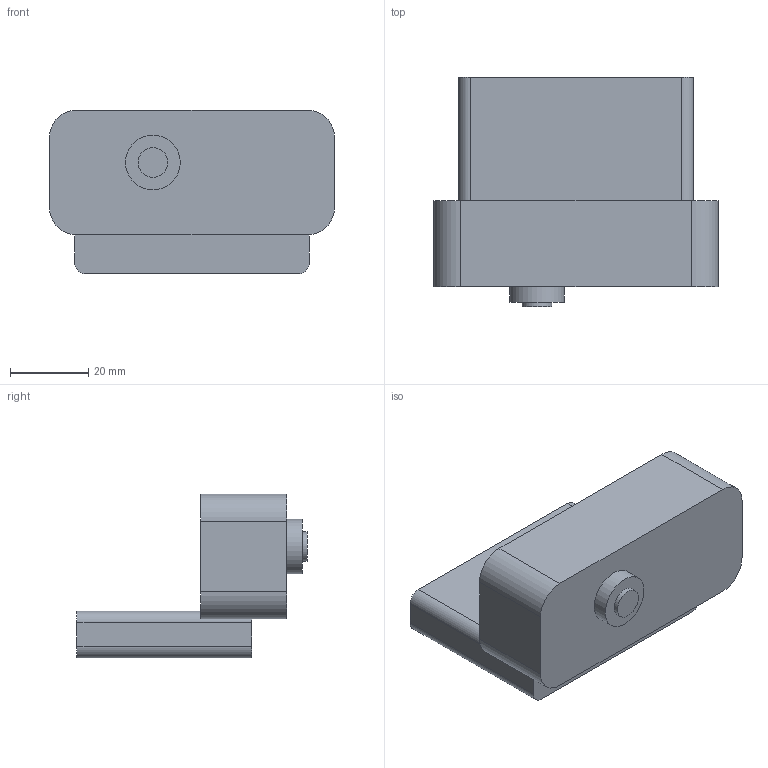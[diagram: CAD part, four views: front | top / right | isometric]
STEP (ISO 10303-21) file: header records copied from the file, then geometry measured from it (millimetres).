
FILE_DESCRIPTION(('Open CASCADE Model'),'2;1');
FILE_NAME('Open CASCADE Shape Model','2026-08-28T14:41:55',('Author'),( 'Open CASCADE'),'Open CASCADE STEP processor 7.8','Open CASCADE 7.8' ,'Unknown');
FILE_SCHEMA(('AUTOMOTIVE_DESIGN { 1 0 10303 214 1 1 1 1 }'));
Length unit declared in the file: millimetre
Products named in the file (3): Logitech_C270_Visual_Reference; C270_Body; C270_Fixed_Clip
Assembly tree (2 placements, depth 2):
  Logitech_C270_Visual_Reference
    C270_Body
    C270_Fixed_Clip
Bounding box: 72.91 x 58.84 x 41.91 mm (x, y, z)
Volume: 82725 mm3; surface area: 16744.1 mm2
Topology: 2 solids, 2 shells, 24 faces, 54 edges, 36 vertices
Faces by surface type: plane 14, cylinder 10
Full cylindrical faces by diameter (mm): 7.6 x1, 14 x1
Entity records: 1466 total; most frequent: CARTESIAN_POINT 273, DIRECTION 228, LINE 122, VECTOR 122, ORIENTED_EDGE 108, PCURVE 108, DEFINITIONAL_REPRESENTATION 108, EDGE_CURVE 54
